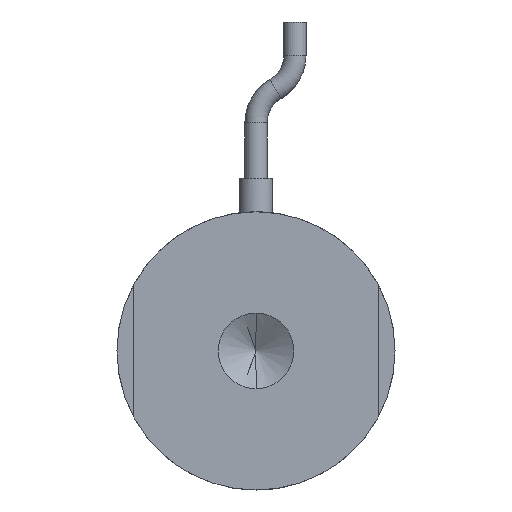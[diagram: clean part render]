
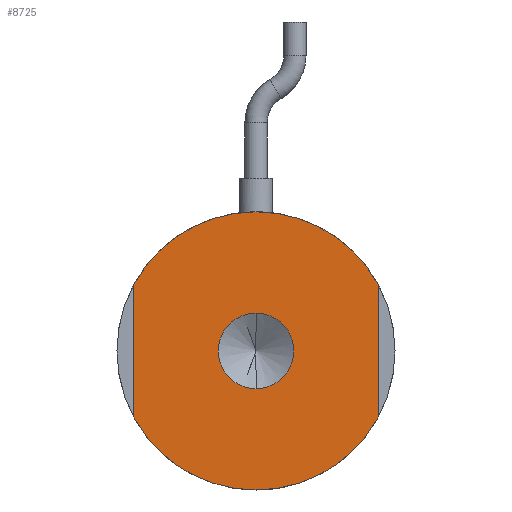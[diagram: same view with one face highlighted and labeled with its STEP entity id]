
A CAD part, front view. The second image highlights one B-rep face of the part: STEP entity #8725.
In plain terms, the highlighted planar face has unit normal (0, -1, 0).
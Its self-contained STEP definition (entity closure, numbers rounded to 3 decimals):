
#2811 = EDGE_CURVE ( 'NONE', #7382, #37566, #43088, .T. ) ;
#3145 = DIRECTION ( 'NONE',  ( 0., 0., 1. ) ) ;
#3183 = VECTOR ( 'NONE', #27522, 1000. ) ;
#3803 = CARTESIAN_POINT ( 'NONE',  ( -11., 0., 0. ) ) ;
#4679 = EDGE_CURVE ( 'NONE', #18415, #15142, #38754, .T. ) ;
#4976 = AXIS2_PLACEMENT_3D ( 'NONE', #30635, #10342, #34024 ) ;
#5092 = EDGE_CURVE ( 'NONE', #32419, #35330, #25504, .T. ) ;
#5135 = DIRECTION ( 'NONE',  ( 0., -1., 0. ) ) ;
#5819 = CARTESIAN_POINT ( 'NONE',  ( -11., 0., 5.937 ) ) ;
#7382 = VERTEX_POINT ( 'NONE', #42469 ) ;
#7515 = AXIS2_PLACEMENT_3D ( 'NONE', #25508, #5135, #28925 ) ;
#7628 = CARTESIAN_POINT ( 'NONE',  ( 0., 0., 3.4 ) ) ;
#8570 = ORIENTED_EDGE ( 'NONE', *, *, #9785, .F. ) ;
#8725 = ADVANCED_FACE ( 'NONE', ( #8940, #17933 ), #27010, .F. ) ;
#8797 = EDGE_LOOP ( 'NONE', ( #40953, #8570, #41454, #27139, #43070, #36662 ) ) ;
#8940 = FACE_BOUND ( 'NONE', #21994, .T. ) ;
#9785 = EDGE_CURVE ( 'NONE', #13448, #32419, #31773, .T. ) ;
#10082 = DIRECTION ( 'NONE',  ( 0., 0., 1. ) ) ;
#10342 = DIRECTION ( 'NONE',  ( 0., 1., 0. ) ) ;
#10688 = DIRECTION ( 'NONE',  ( 0., 1., 0. ) ) ;
#11179 = LINE ( 'NONE', #14315, #3183 ) ;
#12912 = DIRECTION ( 'NONE',  ( 0., 1., 0. ) ) ;
#13448 = VERTEX_POINT ( 'NONE', #24056 ) ;
#14074 = VERTEX_POINT ( 'NONE', #32758 ) ;
#14315 = CARTESIAN_POINT ( 'NONE',  ( 11., 0., 0. ) ) ;
#15142 = VERTEX_POINT ( 'NONE', #42780 ) ;
#16592 = CARTESIAN_POINT ( 'NONE',  ( 0., 0., 0. ) ) ;
#17904 = DIRECTION ( 'NONE',  ( 0., 0., 1. ) ) ;
#17933 = FACE_OUTER_BOUND ( 'NONE', #8797, .T. ) ;
#18415 = VERTEX_POINT ( 'NONE', #42341 ) ;
#20008 = DIRECTION ( 'NONE',  ( 0., 0., -1. ) ) ;
#20040 = CARTESIAN_POINT ( 'NONE',  ( 0., 0., 0. ) ) ;
#21994 = EDGE_LOOP ( 'NONE', ( #23501, #34034 ) ) ;
#22075 = EDGE_CURVE ( 'NONE', #35330, #18415, #27456, .T. ) ;
#22338 = CIRCLE ( 'NONE', #29167, 3.4 ) ;
#23501 = ORIENTED_EDGE ( 'NONE', *, *, #2811, .F. ) ;
#23525 = DIRECTION ( 'NONE',  ( 0., 1., 0. ) ) ;
#24056 = CARTESIAN_POINT ( 'NONE',  ( 0., 0., -12.5 ) ) ;
#25504 = LINE ( 'NONE', #3803, #34480 ) ;
#25508 = CARTESIAN_POINT ( 'NONE',  ( 0., 0., 0. ) ) ;
#27010 = PLANE ( 'NONE',  #33229 ) ;
#27139 = ORIENTED_EDGE ( 'NONE', *, *, #36453, .F. ) ;
#27456 = CIRCLE ( 'NONE', #43525, 12.5 ) ;
#27522 = DIRECTION ( 'NONE',  ( 0., 0., -1. ) ) ;
#28925 = DIRECTION ( 'NONE',  ( 0., 0., -1. ) ) ;
#29167 = AXIS2_PLACEMENT_3D ( 'NONE', #16592, #40324, #20008 ) ;
#29336 = CIRCLE ( 'NONE', #38723, 12.5 ) ;
#30403 = DIRECTION ( 'NONE',  ( 0., 1., 0. ) ) ;
#30635 = CARTESIAN_POINT ( 'NONE',  ( 0., 0., 0. ) ) ;
#30987 = CARTESIAN_POINT ( 'NONE',  ( 0., 0., 0. ) ) ;
#31511 = AXIS2_PLACEMENT_3D ( 'NONE', #43820, #23525, #3145 ) ;
#31773 = CIRCLE ( 'NONE', #31511, 12.5 ) ;
#32419 = VERTEX_POINT ( 'NONE', #42475 ) ;
#32758 = CARTESIAN_POINT ( 'NONE',  ( 11., 0., -5.937 ) ) ;
#33218 = CARTESIAN_POINT ( 'NONE',  ( 0., 0., 0. ) ) ;
#33229 = AXIS2_PLACEMENT_3D ( 'NONE', #20040, #30403, #10082 ) ;
#34024 = DIRECTION ( 'NONE',  ( 0., 0., 1. ) ) ;
#34034 = ORIENTED_EDGE ( 'NONE', *, *, #36293, .F. ) ;
#34241 = EDGE_CURVE ( 'NONE', #14074, #13448, #29336, .T. ) ;
#34384 = DIRECTION ( 'NONE',  ( 0., 0., 1. ) ) ;
#34480 = VECTOR ( 'NONE', #17904, 1000. ) ;
#35330 = VERTEX_POINT ( 'NONE', #5819 ) ;
#36293 = EDGE_CURVE ( 'NONE', #37566, #7382, #22338, .T. ) ;
#36453 = EDGE_CURVE ( 'NONE', #15142, #14074, #11179, .T. ) ;
#36618 = DIRECTION ( 'NONE',  ( 0., 0., 1. ) ) ;
#36662 = ORIENTED_EDGE ( 'NONE', *, *, #22075, .F. ) ;
#37566 = VERTEX_POINT ( 'NONE', #7628 ) ;
#38723 = AXIS2_PLACEMENT_3D ( 'NONE', #30987, #10688, #34384 ) ;
#38754 = CIRCLE ( 'NONE', #4976, 12.5 ) ;
#40324 = DIRECTION ( 'NONE',  ( 0., -1., 0. ) ) ;
#40953 = ORIENTED_EDGE ( 'NONE', *, *, #5092, .F. ) ;
#41454 = ORIENTED_EDGE ( 'NONE', *, *, #34241, .F. ) ;
#42341 = CARTESIAN_POINT ( 'NONE',  ( 0., 0., 12.5 ) ) ;
#42469 = CARTESIAN_POINT ( 'NONE',  ( 0., 0., -3.4 ) ) ;
#42475 = CARTESIAN_POINT ( 'NONE',  ( -11., 0., -5.937 ) ) ;
#42780 = CARTESIAN_POINT ( 'NONE',  ( 11., 0., 5.937 ) ) ;
#43070 = ORIENTED_EDGE ( 'NONE', *, *, #4679, .F. ) ;
#43088 = CIRCLE ( 'NONE', #7515, 3.4 ) ;
#43525 = AXIS2_PLACEMENT_3D ( 'NONE', #33218, #12912, #36618 ) ;
#43820 = CARTESIAN_POINT ( 'NONE',  ( 0., 0., 0. ) ) ;
